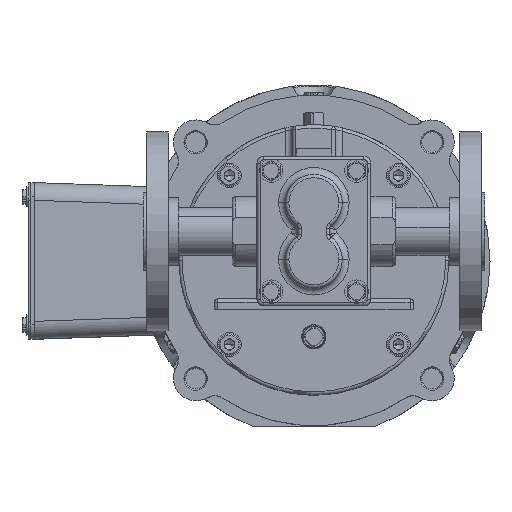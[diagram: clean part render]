
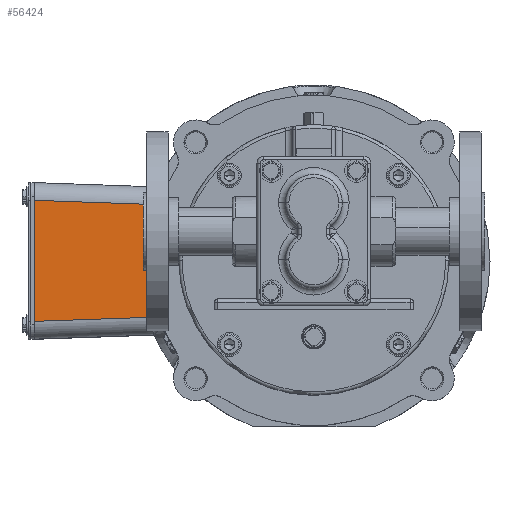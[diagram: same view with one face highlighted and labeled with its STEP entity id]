
A CAD part, top view. The second image highlights one B-rep face of the part: STEP entity #56424.
In plain terms, the highlighted planar face has unit normal (0.035, 0, 0.999).
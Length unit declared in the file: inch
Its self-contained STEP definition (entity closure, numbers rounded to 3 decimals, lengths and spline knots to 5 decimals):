
#177 = CARTESIAN_POINT ( 'NONE',  ( -9.7577, 0.765, -9.16615 ) ) ;
#767 = CARTESIAN_POINT ( 'NONE',  ( -9.7577, -1.22329, -9.16615 ) ) ;
#1502 = ORIENTED_EDGE ( 'NONE', *, *, #22215, .F. ) ;
#1828 = CARTESIAN_POINT ( 'NONE',  ( -9.59821, 0.60552, -9.17172 ) ) ;
#3564 = LINE ( 'NONE', #8214, #29573 ) ;
#5598 = CARTESIAN_POINT ( 'NONE',  ( -9.765, -0.51563, -9.16589 ) ) ;
#6926 = CARTESIAN_POINT ( 'NONE',  ( -9.765, 0.05735, -9.16589 ) ) ;
#6961 = CARTESIAN_POINT ( 'NONE',  ( -11.73487, -1.29233, -9.0971 ) ) ;
#7990 = VECTOR ( 'NONE', #28103, 39.37008 ) ;
#8214 = CARTESIAN_POINT ( 'NONE',  ( -11.73487, 1.14586, -9.0971 ) ) ;
#11459 = VECTOR ( 'NONE', #34243, 39.37008 ) ;
#13242 = CARTESIAN_POINT ( 'NONE',  ( -11.73487, 0.83405, -9.0971 ) ) ;
#16225 = DIRECTION ( 'NONE',  ( 0.999, 0., -0.035 ) ) ;
#16573 = VERTEX_POINT ( 'NONE', #6961 ) ;
#16874 = DIRECTION ( 'NONE',  ( 0.035, 0., 0.999 ) ) ;
#18603 = VERTEX_POINT ( 'NONE', #13242 ) ;
#19062 =( BOUNDED_CURVE ( )  B_SPLINE_CURVE ( 3, ( #32379, #6926, #5598, #45922 ),
 .UNSPECIFIED., .F., .F. ) 
 B_SPLINE_CURVE_WITH_KNOTS ( ( 4, 4 ),
 ( 2.84624, 3.43694 ),
 .UNSPECIFIED. ) 
 CURVE ( )  GEOMETRIC_REPRESENTATION_ITEM ( )  RATIONAL_B_SPLINE_CURVE ( ( 1., 0.971, 0.971, 1. ) ) 
 REPRESENTATION_ITEM ( '' )  );
#19139 = CARTESIAN_POINT ( 'NONE',  ( -9.59821, 0.60552, -9.17172 ) ) ;
#19708 = LINE ( 'NONE', #60624, #11459 ) ;
#20370 = DIRECTION ( 'NONE',  ( -0.999, 0.035, 0.035 ) ) ;
#20635 = EDGE_CURVE ( 'NONE', #57221, #38085, #19062, .T. ) ;
#22215 = EDGE_CURVE ( 'NONE', #38085, #32985, #19708, .T. ) ;
#24227 = VERTEX_POINT ( 'NONE', #36720 ) ;
#26463 = CARTESIAN_POINT ( 'NONE',  ( -11.73487, 1.14586, -9.0971 ) ) ;
#27742 = ORIENTED_EDGE ( 'NONE', *, *, #57951, .T. ) ;
#28103 = DIRECTION ( 'NONE',  ( -0.707, 0.707, 0.025 ) ) ;
#29432 = DIRECTION ( 'NONE',  ( 0.999, 0.035, -0.035 ) ) ;
#29573 = VECTOR ( 'NONE', #33322, 39.37008 ) ;
#30286 = LINE ( 'NONE', #177, #53258 ) ;
#32052 = AXIS2_PLACEMENT_3D ( 'NONE', #26463, #16874, #16225 ) ;
#32379 = CARTESIAN_POINT ( 'NONE',  ( -9.59821, 0.60552, -9.17172 ) ) ;
#32985 = VERTEX_POINT ( 'NONE', #767 ) ;
#33322 = DIRECTION ( 'NONE',  ( 0., -1., 0. ) ) ;
#34243 = DIRECTION ( 'NONE',  ( -0.707, -0.707, 0.025 ) ) ;
#34365 = LINE ( 'NONE', #54494, #63275 ) ;
#34957 = EDGE_CURVE ( 'NONE', #57221, #24227, #39263, .T. ) ;
#36720 = CARTESIAN_POINT ( 'NONE',  ( -9.7577, 0.765, -9.16615 ) ) ;
#37009 = FACE_OUTER_BOUND ( 'NONE', #56644, .T. ) ;
#37291 = ORIENTED_EDGE ( 'NONE', *, *, #44955, .T. ) ;
#38085 = VERTEX_POINT ( 'NONE', #44063 ) ;
#39263 = LINE ( 'NONE', #19139, #7990 ) ;
#43593 = EDGE_CURVE ( 'NONE', #16573, #32985, #34365, .T. ) ;
#44063 = CARTESIAN_POINT ( 'NONE',  ( -9.59821, -1.06381, -9.17172 ) ) ;
#44955 = EDGE_CURVE ( 'NONE', #18603, #16573, #3564, .T. ) ;
#45922 = CARTESIAN_POINT ( 'NONE',  ( -9.59821, -1.06381, -9.17172 ) ) ;
#53258 = VECTOR ( 'NONE', #20370, 39.37008 ) ;
#54494 = CARTESIAN_POINT ( 'NONE',  ( -11.73487, -1.29233, -9.0971 ) ) ;
#55750 = ORIENTED_EDGE ( 'NONE', *, *, #34957, .T. ) ;
#56424 = ADVANCED_FACE ( 'NONE', ( #37009 ), #62090, .T. ) ;
#56644 = EDGE_LOOP ( 'NONE', ( #58942, #1502, #56655, #55750, #27742, #37291 ) ) ;
#56655 = ORIENTED_EDGE ( 'NONE', *, *, #20635, .F. ) ;
#57221 = VERTEX_POINT ( 'NONE', #1828 ) ;
#57951 = EDGE_CURVE ( 'NONE', #24227, #18603, #30286, .T. ) ;
#58942 = ORIENTED_EDGE ( 'NONE', *, *, #43593, .T. ) ;
#60624 = CARTESIAN_POINT ( 'NONE',  ( -9.6274, -1.09299, -9.1707 ) ) ;
#62090 = PLANE ( 'NONE',  #32052 ) ;
#63275 = VECTOR ( 'NONE', #29432, 39.37008 ) ;
